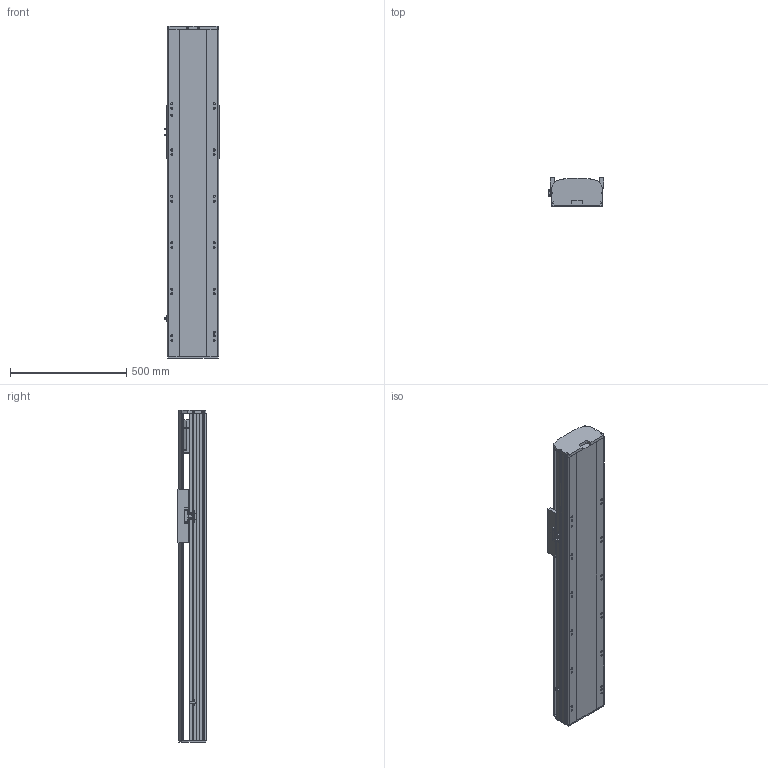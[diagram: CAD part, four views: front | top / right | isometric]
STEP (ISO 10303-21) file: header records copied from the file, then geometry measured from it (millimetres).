
FILE_DESCRIPTION (( 'STEP AP214' ), '1' );
FILE_NAME ('RTH22-XX-800-B-M75B-C4.STEP', '2025-10-24T10:10:12', ( 'Microsoft' ), ( 'Microsoft' ), 'SwSTEP 2.0', 'SolidWorks 2018', '' );
FILE_SCHEMA (( 'AUTOMOTIVE_DESIGN' ));
Length unit declared in the file: millimetre
Products named in the file (9): RTH22-XX-800-B-M75B-C4; N_OMRON EE-SX672 传感器^RTH22-XX-XX-B-M75B-C4; N_RTH22-E-004-SFS25賑釱^RTH22-XX-XX-B-M75B-C4; N_RTH22-GY-013外置感应片^RTH22-XX-XX-B-M75B-C4; N_RTH22-GY-001耜裔^RTH22-XX-XX-B-M75B-C4; N_750W萇儂^RTH22-XX-XX-B-M75B-C4; N_RTH22-B-007B奻裔^RTH22-XX-XX-B-M75B-C4; N_RTH22-B-011B菁釱^RTH22-XX-XX-B-M75B-C4; N_RTH22-B008萇儂啣^RTH22-XX-XX-B-M75B-C4
Assembly tree (10 placements, depth 2):
  RTH22-XX-800-B-M75B-C4
    N_RTH22-B-011B菁釱^RTH22-XX-XX-B-M75B-C4
    N_RTH22-GY-001耜裔^RTH22-XX-XX-B-M75B-C4
    N_750W萇儂^RTH22-XX-XX-B-M75B-C4
    N_RTH22-B008萇儂啣^RTH22-XX-XX-B-M75B-C4
    N_RTH22-B-007B奻裔^RTH22-XX-XX-B-M75B-C4
    N_OMRON EE-SX672 传感器^RTH22-XX-XX-B-M75B-C4  x3
    N_RTH22-GY-013外置感应片^RTH22-XX-XX-B-M75B-C4
    N_RTH22-E-004-SFS25賑釱^RTH22-XX-XX-B-M75B-C4
Bounding box: 238.5 x 122 x 1430 mm (x, y, z)
Volume: 19620512.3 mm3; surface area: 2026516.1 mm2
Topology: 10 solids, 10 shells, 1515 faces, 4150 edges, 2683 vertices
Faces by surface type: plane 752, cylinder 430, bspline 279, cone 54
Entity records: 37433 total; most frequent: CARTESIAN_POINT 11697, ORIENTED_EDGE 5284, DIRECTION 4940, EDGE_CURVE 2642, VERTEX_POINT 1719, AXIS2_PLACEMENT_3D 1654, VECTOR 1632, LINE 1632
